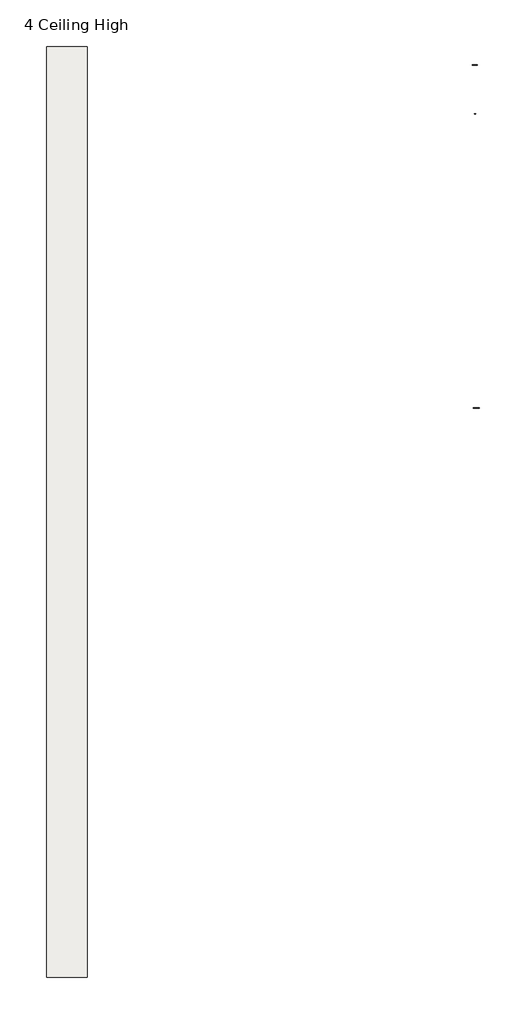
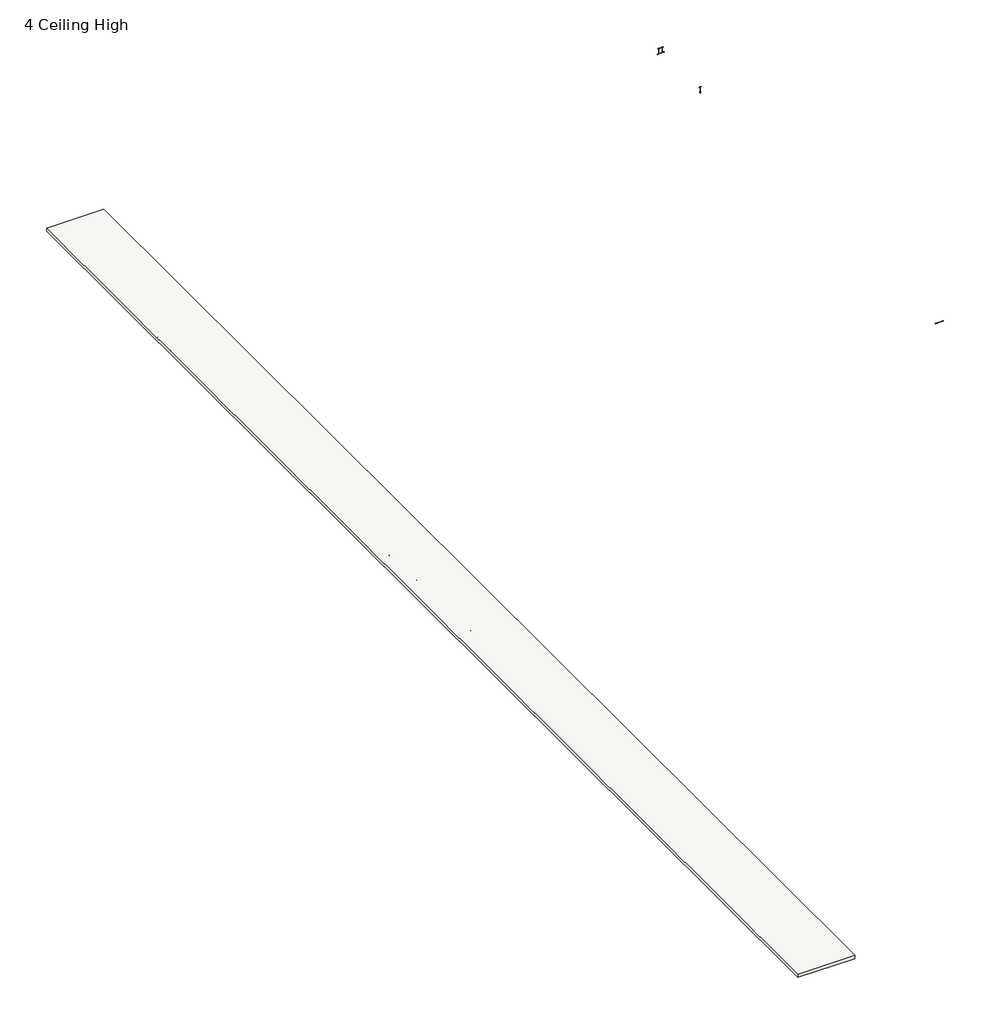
# One storey: 7 light fixtures, 1 covering.
"""IFC4 building model written with IfcOpenShell, lengths in millimetres."""

from ifc_helpers import new_model, si_unit, frame, origin, place, context, project, spatial, polyline, circle_curve, transform, mapped, element, save
from ifc_brep_helpers import plane_surface, cylinder_surface, revolved_surface, advanced_brep
from components import light_fixture_813dc2cb, light_fixture_600mm_2700k_620129ef, linear_2000mm_3000k_c9b1b868, linear_smd_custom_d8e69743, linear_suspendeddirect_1000mm_eee0d3e0, linear_suspendeddirect_3000mm_67b6cb3d, linear_suspendeddirect_custom_5ef7d768

model = new_model("IFC4")

# Units and contexts
model_context = context("Model", 3, world=origin())
ifc_project = project(units=[si_unit("LENGTHUNIT", "METRE", prefix="MILLI")], contexts=[model_context])

# Site, building, storey
site = spatial("IfcSite", under=ifc_project)
building = spatial("IfcBuilding", under=site)
storey = spatial("IfcBuildingStorey", under=building, Name="4 Ceiling High", Elevation=0.0)

# Covering
placement = place(None, origin())
element("IfcCovering", 1, ObjectType="Controsoffitto", at=placement, inside=storey, context=model_context, shape_type="AdvancedBrep", body=[
    advanced_brep(
    [(2500.0, -120950.0, 300.0), (2500.0, -7000.0, 300.0), (-2500.0, -7000.0, 300.0), (-2500.0, -120950.0, 300.0), (2500.0, -7000.0, 0.0), (2500.0, -120950.0, 0.0), (-2500.0, -120950.0, 0.0), (-2500.0, -7000.0, 0.0), (-1700.0, -9238.5829349, 0.0), (-1700.0, -9261.4303834, 0.0), (-700.0, -9261.4303834, 0.0), (-700.0, -9238.5829349, 0.0), (-1700.0, -11238.5829349, 0.0), (-1700.0, -11261.4303834, 0.0), (300.0, -11261.4303834, 0.0), (300.0, -11238.5829349, 0.0), (-1700.0, -13238.5829349, 0.0), (-1700.0, -13261.4303834, 0.0), (1300.0, -13261.4303834, 0.0), (1300.0, -13238.5829349, 0.0), (-1688.5829349, -43200.0, 0.0), (-1711.4170651, -43200.0, 0.0), (-1711.4170651, -43261.4170651, 0.0), (-1650.0, -43261.4170651, 0.0), (-1650.0, -43238.5829349, 0.0), (-1688.5829349, -43238.5829349, 0.0), (-1457.6269159, -53160.9730841, 0.0), (-1473.7730841, -53144.8269159, 0.0), (-1494.9774113, -53166.0312431, 0.0), (-1670.0, -53238.5829349, 0.0), (-1700.0, -53238.5829349, 0.0), (-1700.0, -53261.4170651, 0.0), (-1670.0, -53261.4170651, 0.0), (-1478.8269148, -53182.1730852, 0.0), (-1700.0, -61261.4170651, 0.0), (-1670.0, -61261.4170651, 0.0), (-1261.996936, -61025.2814391, 0.0), (-1247.596938, -61000.181438, 0.0), (-1267.403062, -60988.818562, 0.0), (-1281.799419, -61013.912212, 0.0), (-1670.0, -61238.5829349, 0.0), (-1700.0, -61238.5829349, 0.0), (-1700.0, -63261.4170651, 0.0), (-1670.0, -63261.4170651, 0.0), (-1199.9829349, -62791.4, 0.0), (-1199.9829349, -62761.4, 0.0), (-1222.8170651, -62761.4, 0.0), (-1222.8170651, -62791.4, 0.0), (-1670.0, -63238.5829349, 0.0), (-1700.0, -63238.5829349, 0.0), (-1222.8730903, -65042.1269097, 0.0), (-1698.0, -65238.5829349, 0.0), (-1700.0, -65238.5829349, 0.0), (-1700.0, -65261.4170651, 0.0), (-1698.0, -65261.4170651, 0.0), (-1206.7368498, -65058.2830059, 0.0), (-1204.7269159, -65056.2730841, 0.0), (-1220.8730841, -65040.1269159, 0.0), (-1670.0, -67238.5829349, 0.0), (-1700.0, -67238.5829349, 0.0), (-1700.0, -67261.4170651, 0.0), (-1670.0, -67261.4170651, 0.0), (-1107.8969316, -66936.2814416, 0.0), (-1093.496938, -66911.181438, 0.0), (-1113.303062, -66899.818562, 0.0), (-1127.6965633, -66924.9072345, 0.0), (-999.9829349, -68563.4, 0.0), (-999.9829349, -68561.4, 0.0), (-1022.8170651, -68561.4, 0.0), (-1022.8170651, -68563.4, 0.0), (-1698.0, -69238.5829349, 0.0), (-1700.0, -69238.5829349, 0.0), (-1700.0, -69261.4170651, 0.0), (-1698.0, -69261.4170651, 0.0), (-1420.796938, -55100.181438, 0.0), (-1440.603062, -55088.818562, 0.0), (-1455.008473, -55113.9279937, 0.0), (-1670.0, -55238.5829349, 0.0), (-1700.0, -55238.5829349, 0.0), (-1700.0, -55261.4170651, 0.0), (-1670.0, -55261.4170651, 0.0), (-1435.1969337, -55125.2814404, 0.0), (-1399.9829349, -56961.4, 0.0), (-1422.8170651, -56961.4, 0.0), (-1422.8170651, -56991.4, 0.0), (-1670.0, -57238.5829349, 0.0), (-1700.0, -57238.5829349, 0.0), (-1700.0, -57261.4170651, 0.0), (-1670.0, -57261.4170651, 0.0), (-1399.9829349, -56991.4, 0.0), (-1700.0, -59261.4170651, 0.0), (-1670.0, -59261.4170651, 0.0), (-1337.4269159, -59123.6730841, 0.0), (-1316.2269159, -59102.4730841, 0.0), (-1332.3730841, -59086.3269159, 0.0), (-1353.5725617, -59107.5263934, 0.0), (-1670.0, -59238.5829349, 0.0), (-1700.0, -59238.5829349, 0.0), (-1700.0, -9261.4303834, 12.5), (-1700.0, -9238.5829349, 12.5), (-700.0, -9261.4303834, 12.5), (-700.0, -9238.5829349, 12.5), (-1700.0, -11261.4303834, 12.5), (-1700.0, -11238.5829349, 12.5), (300.0, -11261.4303834, 12.5), (300.0, -11238.5829349, 12.5), (-1700.0, -13261.4303834, 12.5), (-1700.0, -13238.5829349, 12.5), (1300.0, -13261.4303834, 12.5), (1300.0, -13238.5829349, 12.5), (-1688.5829349, -43200.0, 12.5), (-1711.4170651, -43200.0, 12.5), (-1650.0, -43261.4170651, 12.5), (-1650.0, -43238.5829349, 12.5), (-1711.4170651, -43261.4170651, 12.5), (-1688.5829349, -43238.5829349, 12.5), (-1608.2170651, -43308.2170651, 20.5), (-1758.2170651, -43308.2170651, 20.5), (-1758.2170651, -43158.2170651, 20.5), (-1608.2170651, -43158.2170651, 20.5), (-1608.2170651, -43308.2170651, 12.5), (-1608.2170651, -43158.2170651, 12.5), (-1758.2170651, -43158.2170651, 12.5), (-1758.2170651, -43308.2170651, 12.5), (-1457.6269159, -53160.9730841, 12.5), (-1473.7730841, -53144.8269159, 12.5), (-1700.0, -53238.5829349, 12.5), (-1700.0, -53261.4170651, 12.5), (-1494.9730841, -53166.0269159, 12.5), (-1478.8269159, -53182.1730841, 12.5), (-1670.0, -53261.4170651, 12.5), (-1670.0, -53238.5829349, 12.5), (-1670.0, -59261.4170651, 12.5), (-1700.0, -59261.4170651, 12.5), (-1700.0, -61261.4170651, 12.5), (-1670.0, -61261.4170651, 12.5), (-1700.0, -63261.4170651, 12.5), (-1670.0, -63261.4170651, 12.5), (-1222.8631502, -65042.1169941, 12.5), (-1698.0, -65238.5829349, 12.5), (-1700.0, -65238.5829349, 12.5), (-1700.0, -67261.4170651, 12.5), (-1700.0, -67238.5829349, 12.5), (-1670.0, -67238.5829349, 12.5), (-1127.6965569, -66924.9072382, 12.5), (-1113.303062, -66899.818562, 12.5), (-1093.496938, -66911.181438, 12.5), (-1107.896938, -66936.281438, 12.5), (-1670.0, -67261.4170651, 12.5), (-999.9829349, -68563.4, 12.5), (-999.9829349, -68561.4, 12.5), (-1420.796938, -55100.181438, 12.5), (-1440.603062, -55088.818562, 12.5), (-1700.0, -55238.5829349, 12.5), (-1700.0, -55261.4170651, 12.5), (-1455.003062, -55113.918562, 12.5), (-1435.196938, -55125.281438, 12.5), (-1670.0, -55261.4170651, 12.5), (-1670.0, -55238.5829349, 12.5), (-1399.9829349, -56961.4, 12.5), (-1422.8170651, -56961.4, 12.5), (-1700.0, -57238.5829349, 12.5), (-1700.0, -57261.4170651, 12.5), (-1422.8170651, -56991.4, 12.5), (-1399.9829349, -56991.4, 12.5), (-1670.0, -57261.4170651, 12.5), (-1670.0, -57238.5829349, 12.5), (-1316.2269159, -59102.4730841, 12.5), (-1332.3730841, -59086.3269159, 12.5), (-1700.0, -59238.5829349, 12.5), (-1353.5730841, -59107.5269159, 12.5), (-1337.4269159, -59123.6730841, 12.5), (-1670.0, -59238.5829349, 12.5), (-1247.596938, -61000.181438, 12.5), (-1267.403062, -60988.818562, 12.5), (-1700.0, -61238.5829349, 12.5), (-1281.803062, -61013.918562, 12.5), (-1261.996938, -61025.281438, 12.5), (-1670.0, -61238.5829349, 12.5), (-1222.8170651, -62761.4, 12.5), (-1199.9829349, -62761.4, 12.5), (-1700.0, -63238.5829349, 12.5), (-1222.8170651, -62791.4, 12.5), (-1670.0, -63238.5829349, 12.5), (-1199.9829349, -62791.4, 12.5), (-1204.7269159, -65056.2730841, 12.5), (-1220.8730841, -65040.1269159, 12.5), (-1700.0, -65261.4170651, 12.5), (-1206.7269159, -65058.2730841, 12.5), (-1698.0, -65261.4170651, 12.5), (-1022.8170651, -68561.4, 12.5), (-1700.0, -69238.5829349, 12.5), (-1700.0, -69261.4170651, 12.5), (-1022.8170651, -68563.4, 12.5), (-1698.0, -69261.4170651, 12.5), (-1698.0, -69238.5829349, 12.5)],
    [
        (0, 1),
        (1, 2),
        (2, 3),
        (3, 0),
        (4, 5),
        (5, 6),
        (6, 7),
        (7, 4),
        (8, 9),
        (9, 10),
        (10, 11),
        (11, 8),
        (12, 13),
        (13, 14),
        (14, 15),
        (15, 12),
        (16, 17),
        (17, 18),
        (18, 19),
        (19, 16),
        (20, 21),
        (21, 22),
        (22, 23),
        (23, 24),
        (24, 25),
        (25, 20),
        (26, 27),
        (27, 28),
        (28, 29, circle_curve(frame((-1670.0, -52991.1961792, 0.0), z_axis=(0.0, 0.0, -1.0), x_axis=(0.70748569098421, -0.7067276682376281, 0.0)), 247.3867558)),
        (29, 30),
        (30, 31),
        (31, 32),
        (32, 33, circle_curve(frame((-1670.0, -52991.1961792, 0.0), z_axis=(0.0, 0.0, 1.0), x_axis=(0.70748569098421, -0.7067276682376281, 0.0)), 270.2208859)),
        (33, 26),
        (34, 35),
        (35, 36, circle_curve(frame((-1670.0, -60790.8685547, 0.0), z_axis=(0.0, 0.0, 1.0), x_axis=(0.867071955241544, -0.4981829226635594, 0.0)), 470.5485104)),
        (36, 37),
        (37, 38),
        (38, 39),
        (39, 40, circle_curve(frame((-1670.0, -60790.8685547, 0.0), z_axis=(0.0, 0.0, -1.0), x_axis=(0.867071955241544, -0.4981829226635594, 0.0)), 447.7143803)),
        (40, 41),
        (41, 34),
        (42, 43),
        (43, 44, circle_curve(frame((-1670.0, -62791.4, 0.0), z_axis=(0.0, 0.0, 1.0), x_axis=(1.0, 0.0, 0.0)), 470.0170651)),
        (44, 45),
        (45, 46),
        (46, 47),
        (47, 48, circle_curve(frame((-1670.0, -62791.4, 0.0), z_axis=(0.0, 0.0, -1.0), x_axis=(1.0, 0.0, 0.0)), 447.1829349)),
        (48, 49),
        (49, 42),
        (50, 51, circle_curve(frame((-1698.0, -64565.8101101, 0.0), z_axis=(0.0, 0.0, -1.0), x_axis=(0.7062366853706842, -0.7079758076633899, 0.0)), 672.7728248)),
        (51, 52),
        (52, 53),
        (53, 54),
        (54, 55, circle_curve(frame((-1698.0, -64565.8101101, 0.0), z_axis=(0.0, 0.0, 1.0), x_axis=(0.7062366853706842, -0.7079758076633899, 0.0)), 695.606955)),
        (55, 56),
        (56, 57),
        (57, 50),
        (58, 59),
        (59, 60),
        (60, 61),
        (61, 62, circle_curve(frame((-1670.0, -66612.9599249, 0.0), z_axis=(0.0, 0.0, 1.0), x_axis=(0.866821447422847, -0.49861867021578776, 0.0)), 648.4571402)),
        (62, 63),
        (63, 64),
        (64, 65),
        (65, 58, circle_curve(frame((-1670.0, -66612.9599249, 0.0), z_axis=(0.0, 0.0, -1.0), x_axis=(0.866821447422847, -0.49861867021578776, 0.0)), 625.6230101)),
        (66, 67),
        (67, 68),
        (68, 69),
        (69, 70, circle_curve(frame((-1698.0, -68563.4, 0.0), z_axis=(0.0, 0.0, -1.0), x_axis=(1.0, 0.0, 0.0)), 675.1829349)),
        (70, 71),
        (71, 72),
        (72, 73),
        (73, 66, circle_curve(frame((-1698.0, -68563.4, 0.0), z_axis=(0.0, 0.0, 1.0), x_axis=(1.0, 0.0, 0.0)), 698.0170651)),
        (74, 75),
        (75, 76),
        (76, 77, circle_curve(frame((-1670.0, -54990.8582439, 0.0), z_axis=(0.0, 0.0, -1.0), x_axis=(0.8678647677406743, -0.49680050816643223, 0.0)), 247.7246911)),
        (77, 78),
        (78, 79),
        (79, 80),
        (80, 81, circle_curve(frame((-1670.0, -54990.8582439, 0.0), z_axis=(0.0, 0.0, 1.0), x_axis=(0.8678647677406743, -0.49680050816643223, 0.0)), 270.5588212)),
        (81, 74),
        (82, 83),
        (83, 84),
        (84, 85, circle_curve(frame((-1670.0, -56991.4, 0.0), z_axis=(0.0, 0.0, -1.0), x_axis=(1.0, 0.0, 0.0)), 247.1829349)),
        (85, 86),
        (86, 87),
        (87, 88),
        (88, 89, circle_curve(frame((-1670.0, -56991.4, 0.0), z_axis=(0.0, 0.0, 1.0), x_axis=(1.0, 0.0, 0.0)), 270.0170651)),
        (89, 82),
        (90, 91),
        (91, 92, circle_curve(frame((-1670.0, -58791.0579985, 0.0), z_axis=(0.0, 0.0, 1.0), x_axis=(0.7070610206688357, -0.7071525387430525, 0.0)), 470.3590666)),
        (92, 93),
        (93, 94),
        (94, 95),
        (95, 96, circle_curve(frame((-1670.0, -58791.0579985, 0.0), z_axis=(0.0, 0.0, -1.0), x_axis=(0.7070610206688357, -0.7071525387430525, 0.0)), 447.5249364)),
        (96, 97),
        (97, 90),
        (0, 5),
        (4, 1),
        (3, 6),
        (2, 7),
        (98, 9),
        (8, 99),
        (99, 98),
        (100, 101),
        (101, 11),
        (10, 100),
        (99, 101),
        (100, 98),
        (102, 13),
        (12, 103),
        (103, 102),
        (104, 105),
        (105, 15),
        (14, 104),
        (103, 105),
        (104, 102),
        (106, 17),
        (16, 107),
        (107, 106),
        (108, 109),
        (109, 19),
        (18, 108),
        (107, 109),
        (108, 106),
        (20, 110),
        (110, 111),
        (111, 21),
        (23, 112),
        (112, 113),
        (113, 24),
        (111, 114),
        (114, 22),
        (25, 115),
        (115, 110),
        (114, 112),
        (113, 115),
        (116, 117),
        (117, 118),
        (118, 119),
        (119, 116),
        (120, 121),
        (121, 122),
        (122, 123),
        (123, 120),
        (119, 121),
        (120, 116),
        (118, 122),
        (117, 123),
        (26, 124),
        (124, 125),
        (125, 27),
        (30, 126),
        (126, 127),
        (127, 31),
        (125, 128),
        (128, 28),
        (124, 129),
        (129, 130, circle_curve(frame((-1670.0, -52991.1961792, 12.5), z_axis=(0.0, 0.0, -1.0), x_axis=(0.70748569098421, -0.7067276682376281, 0.0)), 270.2208859)),
        (130, 127),
        (126, 131),
        (131, 128, circle_curve(frame((-1670.0, -52991.1961792, 12.5), z_axis=(0.0, 0.0, 1.0), x_axis=(0.70748569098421, -0.7067276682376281, 0.0)), 247.3867558)),
        (33, 129),
        (131, 29),
        (32, 130),
        (132, 91),
        (90, 133),
        (133, 132),
        (34, 134),
        (134, 135),
        (135, 35),
        (42, 136),
        (136, 137),
        (137, 43),
        (138, 139, circle_curve(frame((-1698.0, -64565.8101101, 12.5), z_axis=(0.0, 0.0, -1.0), x_axis=(0.7062366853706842, -0.7079758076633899, 0.0)), 672.7728248)),
        (139, 51),
        (50, 138),
        (139, 140),
        (140, 52),
        (141, 142),
        (142, 143),
        (143, 144, circle_curve(frame((-1670.0, -66612.9599249, 12.5), z_axis=(0.0, 0.0, 1.0), x_axis=(0.866821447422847, -0.49861867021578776, 0.0)), 625.6230101)),
        (144, 145),
        (145, 146),
        (146, 147),
        (147, 148, circle_curve(frame((-1670.0, -66612.9599249, 12.5), z_axis=(0.0, 0.0, -1.0), x_axis=(0.866821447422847, -0.49861867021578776, 0.0)), 648.4571402)),
        (148, 141),
        (142, 59),
        (58, 143),
        (66, 149),
        (149, 150),
        (150, 67),
        (151, 152),
        (152, 75),
        (74, 151),
        (78, 153),
        (153, 154),
        (154, 79),
        (152, 155),
        (155, 76),
        (151, 156),
        (156, 157, circle_curve(frame((-1670.0, -54990.8582439, 12.5), z_axis=(0.0, 0.0, -1.0), x_axis=(0.8678647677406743, -0.49680050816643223, 0.0)), 270.5588212)),
        (157, 154),
        (153, 158),
        (158, 155, circle_curve(frame((-1670.0, -54990.8582439, 12.5), z_axis=(0.0, 0.0, 1.0), x_axis=(0.8678647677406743, -0.49680050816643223, 0.0)), 247.7246911)),
        (81, 156),
        (158, 77),
        (80, 157),
        (159, 160),
        (160, 83),
        (82, 159),
        (86, 161),
        (161, 162),
        (162, 87),
        (160, 163),
        (163, 84),
        (159, 164),
        (164, 165, circle_curve(frame((-1670.0, -56991.4, 12.5), z_axis=(0.0, 0.0, -1.0), x_axis=(1.0, 0.0, 0.0)), 270.0170651)),
        (165, 162),
        (161, 166),
        (166, 163, circle_curve(frame((-1670.0, -56991.4, 12.5), z_axis=(0.0, 0.0, 1.0), x_axis=(1.0, 0.0, 0.0)), 247.1829349)),
        (89, 164),
        (166, 85),
        (88, 165),
        (93, 167),
        (167, 168),
        (168, 94),
        (97, 169),
        (169, 133),
        (168, 170),
        (170, 95),
        (167, 171),
        (171, 132, circle_curve(frame((-1670.0, -58791.0579985, 12.5), z_axis=(0.0, 0.0, -1.0), x_axis=(0.7070610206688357, -0.7071525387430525, 0.0)), 470.3590666)),
        (169, 172),
        (172, 170, circle_curve(frame((-1670.0, -58791.0579985, 12.5), z_axis=(0.0, 0.0, 1.0), x_axis=(0.7070610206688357, -0.7071525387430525, 0.0)), 447.5249364)),
        (92, 171),
        (172, 96),
        (37, 173),
        (173, 174),
        (174, 38),
        (175, 134),
        (41, 175),
        (174, 176),
        (176, 39),
        (173, 177),
        (177, 135, circle_curve(frame((-1670.0, -60790.8685547, 12.5), z_axis=(0.0, 0.0, -1.0), x_axis=(0.867071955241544, -0.4981829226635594, 0.0)), 470.5485104)),
        (175, 178),
        (178, 176, circle_curve(frame((-1670.0, -60790.8685547, 12.5), z_axis=(0.0, 0.0, 1.0), x_axis=(0.867071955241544, -0.4981829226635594, 0.0)), 447.7143803)),
        (36, 177),
        (178, 40),
        (179, 46),
        (45, 180),
        (180, 179),
        (49, 181),
        (181, 136),
        (179, 182),
        (182, 47),
        (181, 183),
        (183, 182, circle_curve(frame((-1670.0, -62791.4, 12.5), z_axis=(0.0, 0.0, 1.0), x_axis=(1.0, 0.0, 0.0)), 447.1829349)),
        (180, 184),
        (184, 137, circle_curve(frame((-1670.0, -62791.4, 12.5), z_axis=(0.0, 0.0, -1.0), x_axis=(1.0, 0.0, 0.0)), 470.0170651)),
        (44, 184),
        (183, 48),
        (56, 185),
        (185, 186),
        (186, 57),
        (140, 187),
        (187, 53),
        (186, 138),
        (185, 188),
        (188, 189, circle_curve(frame((-1698.0, -64565.8101101, 12.5), z_axis=(0.0, 0.0, -1.0), x_axis=(0.7062366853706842, -0.7079758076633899, 0.0)), 695.606955)),
        (189, 187),
        (55, 188),
        (54, 189),
        (63, 146),
        (145, 64),
        (141, 60),
        (144, 65),
        (62, 147),
        (61, 148),
        (150, 190),
        (190, 68),
        (191, 192),
        (192, 72),
        (71, 191),
        (190, 193),
        (193, 69),
        (149, 194, circle_curve(frame((-1698.0, -68563.4, 12.5), z_axis=(0.0, 0.0, -1.0), x_axis=(1.0, 0.0, 0.0)), 698.0170651)),
        (194, 192),
        (191, 195),
        (195, 193, circle_curve(frame((-1698.0, -68563.4, 12.5), z_axis=(0.0, 0.0, 1.0), x_axis=(1.0, 0.0, 0.0)), 675.1829349)),
        (195, 70),
        (73, 194),
    ],
    [
        plane_surface(frame((-2500.0, -7000.0, 300.0), z_axis=(0.0, 0.0, 1.0), x_axis=(-1.0, 0.0, 0.0))),
        plane_surface(frame((-2500.0, -7000.0, 0.0), z_axis=(0.0, 0.0, -1.0), x_axis=(1.0, 0.0, 0.0))),
        plane_surface(frame((2500.0, -120950.0, 300.0), z_axis=(1.0, 0.0, 0.0), x_axis=(0.0, 0.0, -1.0))),
        plane_surface(frame((-2500.0, -120950.0, 300.0), z_axis=(0.0, -1.0, 0.0), x_axis=(0.0, 0.0, -1.0))),
        plane_surface(frame((-2500.0, -7000.0, 300.0), z_axis=(-1.0, 0.0, 0.0), x_axis=(0.0, 0.0, -1.0))),
        plane_surface(frame((2500.0, -7000.0, 300.0), z_axis=(0.0, 1.0, 0.0), x_axis=(0.0, 0.0, -1.0))),
        plane_surface(frame((-1700.0, -9250.0, 0.0), z_axis=(1.0, 0.0, 0.0), x_axis=(0.0, 0.0, -1.0))),
        plane_surface(frame((-700.0, -9250.0, 0.0), z_axis=(-1.0, 0.0, 0.0), x_axis=(0.0, 0.0, -1.0))),
        plane_surface(frame((-1700.0, -9261.4303834, 12.5), z_axis=(0.0, 0.0, -1.0), x_axis=(1.0, 0.0, 0.0))),
        plane_surface(frame((-1700.0, -9238.5829349, 12.5), z_axis=(0.0, -1.0, 0.0), x_axis=(1.0, 0.0, 0.0))),
        plane_surface(frame((-1700.0, -9261.4303834, -0.0137114), z_axis=(0.0, 1.0, 0.0), x_axis=(1.0, 0.0, 0.0))),
        plane_surface(frame((-1700.0, -11250.0, 0.0), z_axis=(1.0, 0.0, 0.0), x_axis=(0.0, 0.0, -1.0))),
        plane_surface(frame((300.0, -11250.0, 0.0), z_axis=(-1.0, 0.0, 0.0), x_axis=(0.0, 0.0, -1.0))),
        plane_surface(frame((-1700.0, -11261.4303834, 12.5), z_axis=(0.0, 0.0, -1.0), x_axis=(1.0, 0.0, 0.0))),
        plane_surface(frame((-1700.0, -11238.5829349, 12.5), z_axis=(0.0, -1.0, 0.0), x_axis=(1.0, 0.0, 0.0))),
        plane_surface(frame((-1700.0, -11261.4303834, -0.0137114), z_axis=(0.0, 1.0, 0.0), x_axis=(1.0, 0.0, 0.0))),
        plane_surface(frame((-1700.0, -13250.0, 0.0), z_axis=(1.0, 0.0, 0.0), x_axis=(0.0, 0.0, -1.0))),
        plane_surface(frame((1300.0, -13250.0, 0.0), z_axis=(-1.0, 0.0, 0.0), x_axis=(0.0, 0.0, -1.0))),
        plane_surface(frame((-1700.0, -13261.4303834, 12.5), z_axis=(0.0, 0.0, -1.0), x_axis=(1.0, 0.0, 0.0))),
        plane_surface(frame((-1700.0, -13238.5829349, 12.5), z_axis=(0.0, -1.0, 0.0), x_axis=(1.0, 0.0, 0.0))),
        plane_surface(frame((-1700.0, -13261.4303834, -0.0137114), z_axis=(0.0, 1.0, 0.0), x_axis=(1.0, 0.0, 0.0))),
        plane_surface(frame((-1700.0, -43200.0, 12.5), z_axis=(0.0, -1.0, 0.0), x_axis=(0.0, 0.0, -1.0))),
        plane_surface(frame((-1650.0, -43250.0, 12.5), z_axis=(-1.0, 0.0, 0.0), x_axis=(0.0, 0.0, -1.0))),
        plane_surface(frame((-1711.4170651, -43200.0, 0.0), z_axis=(1.0, 0.0, 0.0), x_axis=(0.0, -1.0, 0.0))),
        plane_surface(frame((-1688.5829349, -43200.0, 12.5), z_axis=(-1.0, 0.0, 0.0), x_axis=(0.0, -1.0, 0.0))),
        plane_surface(frame((-1711.4170651, -43261.4170651, 0.0), z_axis=(0.0, 1.0, 0.0), x_axis=(1.0, 0.0, 0.0))),
        plane_surface(frame((-1688.5829349, -43238.5829349, 12.5), z_axis=(0.0, -1.0, 0.0), x_axis=(1.0, 0.0, 0.0))),
        plane_surface(frame((-1608.2170651, -43373.2170651, 20.5), z_axis=(0.0, 0.0, -1.0), x_axis=(0.0, 1.0, 0.0))),
        plane_surface(frame((-1608.2170651, -43373.2170651, 12.5), z_axis=(0.0, 0.0, 1.0), x_axis=(0.0, -1.0, 0.0))),
        plane_surface(frame((-1608.2170651, -43308.2170651, 20.5), z_axis=(-1.0, 0.0, 0.0), x_axis=(0.0, 0.0, -1.0))),
        plane_surface(frame((-1608.2170651, -43158.2170651, 20.5), z_axis=(0.0, -1.0, 0.0), x_axis=(0.0, 0.0, -1.0))),
        plane_surface(frame((-1758.2170651, -43158.2170651, 20.5), z_axis=(1.0, 0.0, 0.0), x_axis=(0.0, 0.0, -1.0))),
        plane_surface(frame((-1758.2170651, -43308.2170651, 20.5), z_axis=(0.0, 1.0, 0.0), x_axis=(0.0, 0.0, -1.0))),
        plane_surface(frame((-1465.7, -53152.9, 12.5), z_axis=(-0.707106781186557, -0.7071067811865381, 0.0), x_axis=(0.0, 0.0, -1.0))),
        plane_surface(frame((-1700.0, -53250.0, 12.5), z_axis=(1.0, 0.0, 0.0), x_axis=(0.0, 0.0, -1.0))),
        plane_surface(frame((-1473.7730841, -53144.8269159, 0.0), z_axis=(0.7071067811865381, -0.7071067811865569, 0.0), x_axis=(-0.7071067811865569, -0.7071067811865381, 0.0))),
        plane_surface(frame((-1473.7730841, -53144.8269159, 12.5), z_axis=(0.0, 0.0, -1.0), x_axis=(-0.7071067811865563, -0.7071067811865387, 0.0))),
        plane_surface(frame((-1457.6269159, -53160.9730841, 12.5), z_axis=(-0.7071067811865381, 0.7071067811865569, 0.0), x_axis=(-0.7071067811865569, -0.7071067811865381, 0.0))),
        cylinder_surface(frame((-1670.0, -52991.1961792, 12.5), z_axis=(0.0, 0.0, -1.0), x_axis=(0.70748569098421, -0.7067276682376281, 0.0)), 247.3867558),
        revolved_surface(polyline([(-1478.822589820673, -53182.16875580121, 0.0), (-1478.822589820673, -53182.16875580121, 12.5)]), (-1670.0, -52991.1961792, 12.5), (0.0, 0.0, -1.0)),
        plane_surface(frame((-1670.0, -53238.5829349, 0.0), z_axis=(0.0, -1.0, 0.0), x_axis=(-1.0, 0.0, 0.0))),
        plane_surface(frame((-1670.0, -53261.4170651, 12.5), z_axis=(0.0, 1.0, 0.0), x_axis=(-1.0, 0.0, 0.0))),
        plane_surface(frame((-1670.0, -59261.4170651, 12.5), z_axis=(0.0, 1.0, 0.0), x_axis=(-1.0, 0.0, 0.0))),
        plane_surface(frame((-1670.0, -61261.4170651, 12.5), z_axis=(0.0, 1.0, 0.0), x_axis=(-1.0, 0.0, 0.0))),
        plane_surface(frame((-1670.0, -63261.4170651, 12.5), z_axis=(0.0, 1.0, 0.0), x_axis=(-1.0, 0.0, 0.0))),
        cylinder_surface(frame((-1698.0, -64565.8101101, 12.5), z_axis=(0.0, 0.0, -1.0), x_axis=(0.7062366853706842, -0.7079758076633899, 0.0)), 672.7728248),
        plane_surface(frame((-1698.0, -65238.5829349, 0.0), z_axis=(0.0, -1.0, 0.0), x_axis=(-1.0, 0.0, 0.0))),
        plane_surface(frame((-1113.303062, -66899.818562, 12.5), z_axis=(0.0, 0.0, -1.0000000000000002), x_axis=(-0.49762683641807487, -0.8673912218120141, 0.0))),
        plane_surface(frame((-1670.0, -67238.5829349, 0.0), z_axis=(0.0, -1.0, 0.0), x_axis=(-1.0, 0.0, 0.0))),
        plane_surface(frame((-999.9829349, -68561.4, 12.5), z_axis=(-1.0, 0.0, 0.0), x_axis=(0.0, -1.0, 0.0))),
        plane_surface(frame((-1430.7, -55094.5, 12.5), z_axis=(-0.49762683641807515, -0.867391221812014, 0.0), x_axis=(0.0, 0.0, -1.0))),
        plane_surface(frame((-1700.0, -55250.0, 12.5), z_axis=(1.0, 0.0, 0.0), x_axis=(0.0, 0.0, -1.0))),
        plane_surface(frame((-1440.603062, -55088.818562, 0.0), z_axis=(0.8673912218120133, -0.49762683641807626, 0.0), x_axis=(-0.49762683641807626, -0.8673912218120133, 0.0))),
        plane_surface(frame((-1440.603062, -55088.818562, 12.5), z_axis=(0.0, 0.0, -1.0000000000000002), x_axis=(-0.49762683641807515, -0.867391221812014, 0.0))),
        plane_surface(frame((-1420.796938, -55100.181438, 12.5), z_axis=(-0.8673912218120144, 0.4976268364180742, 0.0), x_axis=(-0.4976268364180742, -0.8673912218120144, 0.0))),
        cylinder_surface(frame((-1670.0, -54990.8582439, 12.5), z_axis=(0.0, 0.0, -1.0), x_axis=(0.8678647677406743, -0.49680050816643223, 0.0)), 247.7246911),
        revolved_surface(polyline([(-1435.1915314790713, -55125.27200376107, 0.0), (-1435.1915314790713, -55125.27200376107, 12.5)]), (-1670.0, -54990.8582439, 12.5), (0.0, 0.0, -1.0)),
        plane_surface(frame((-1670.0, -55238.5829349, 0.0), z_axis=(0.0, -1.0, 0.0), x_axis=(-1.0, 0.0, 0.0))),
        plane_surface(frame((-1670.0, -55261.4170651, 12.5), z_axis=(0.0, 1.0, 0.0), x_axis=(-1.0, 0.0, 0.0))),
        plane_surface(frame((-1411.4, -56961.4, 12.5), z_axis=(0.0, -1.0, 0.0), x_axis=(0.0, 0.0, -1.0))),
        plane_surface(frame((-1700.0, -57250.0, 12.5), z_axis=(1.0, 0.0, 0.0), x_axis=(0.0, 0.0, -1.0))),
        plane_surface(frame((-1422.8170651, -56961.4, 0.0), z_axis=(1.0, 0.0, 0.0), x_axis=(0.0, -1.0, 0.0))),
        plane_surface(frame((-1422.8170651, -56961.4, 12.5), z_axis=(0.0, 0.0, -1.0), x_axis=(0.0, -1.0, 0.0))),
        plane_surface(frame((-1399.9829349, -56961.4, 12.5), z_axis=(-1.0, 0.0, 0.0), x_axis=(0.0, -1.0, 0.0))),
        cylinder_surface(frame((-1670.0, -56991.4, 12.5), z_axis=(0.0, 0.0, -1.0), x_axis=(1.0, 0.0, 0.0)), 247.1829349),
        revolved_surface(polyline([(-1399.9829349, -56991.4, 0.0), (-1399.9829349, -56991.4, 12.5)]), (-1670.0, -56991.4, 12.5), (0.0, 0.0, -1.0)),
        plane_surface(frame((-1670.0, -57238.5829349, 0.0), z_axis=(0.0, -1.0, 0.0), x_axis=(-1.0, 0.0, 0.0))),
        plane_surface(frame((-1670.0, -57261.4170651, 12.5), z_axis=(0.0, 1.0, 0.0), x_axis=(-1.0, 0.0, 0.0))),
        plane_surface(frame((-1324.3, -59094.4, 12.5), z_axis=(-0.7071067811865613, -0.7071067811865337, 0.0), x_axis=(0.0, 0.0, -1.0))),
        plane_surface(frame((-1700.0, -59250.0, 12.5), z_axis=(1.0, 0.0, 0.0), x_axis=(0.0, 0.0, -1.0))),
        plane_surface(frame((-1332.3730841, -59086.3269159, 0.0), z_axis=(0.7071067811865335, -0.7071067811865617, 0.0), x_axis=(-0.7071067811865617, -0.7071067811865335, 0.0))),
        plane_surface(frame((-1332.3730841, -59086.3269159, 12.5), z_axis=(0.0, 0.0, -1.0), x_axis=(-0.7071067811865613, -0.7071067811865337, 0.0))),
        plane_surface(frame((-1316.2269159, -59102.4730841, 12.5), z_axis=(-0.7071067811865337, 0.7071067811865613, 0.0), x_axis=(-0.7071067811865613, -0.7071067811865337, 0.0))),
        cylinder_surface(frame((-1670.0, -58791.0579985, 12.5), z_axis=(0.0, 0.0, -1.0), x_axis=(0.7070610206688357, -0.7071525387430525, 0.0)), 447.5249364),
        revolved_surface(polyline([(-1337.427438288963, -59123.673606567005, 0.0), (-1337.427438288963, -59123.673606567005, 12.5)]), (-1670.0, -58791.0579985, 12.5), (0.0, 0.0, -1.0)),
        plane_surface(frame((-1670.0, -59238.5829349, 0.0), z_axis=(0.0, -1.0, 0.0), x_axis=(-1.0, 0.0, 0.0))),
        plane_surface(frame((-1257.5, -60994.5, 12.5), z_axis=(-0.49762683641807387, -0.8673912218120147, 0.0), x_axis=(0.0, 0.0, -1.0))),
        plane_surface(frame((-1700.0, -61250.0, 12.5), z_axis=(1.0, 0.0, 0.0), x_axis=(0.0, 0.0, -1.0))),
        plane_surface(frame((-1267.403062, -60988.818562, 0.0), z_axis=(0.8673912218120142, -0.49762683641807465, 0.0), x_axis=(-0.49762683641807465, -0.8673912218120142, 0.0))),
        plane_surface(frame((-1267.403062, -60988.818562, 12.5), z_axis=(0.0, 0.0, -1.0000000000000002), x_axis=(-0.49762683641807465, -0.8673912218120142, 0.0))),
        plane_surface(frame((-1247.596938, -61000.181438, 12.5), z_axis=(-0.8673912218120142, 0.49762683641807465, 0.0), x_axis=(-0.49762683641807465, -0.8673912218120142, 0.0))),
        cylinder_surface(frame((-1670.0, -60790.8685547, 12.5), z_axis=(0.0, 0.0, -1.0), x_axis=(0.867071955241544, -0.4981829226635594, 0.0)), 447.7143803),
        revolved_surface(polyline([(-1262.000583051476, -61025.28778686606, 0.0), (-1262.000583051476, -61025.28778686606, 12.5)]), (-1670.0, -60790.8685547, 12.5), (0.0, 0.0, -1.0)),
        plane_surface(frame((-1670.0, -61238.5829349, 0.0), z_axis=(0.0, -1.0, 0.0), x_axis=(-1.0, 0.0, 0.0))),
        plane_surface(frame((-1211.4, -62761.4, 12.5), z_axis=(0.0, -1.0, 0.0), x_axis=(0.0, 0.0, -1.0))),
        plane_surface(frame((-1700.0, -63250.0, 12.5), z_axis=(1.0, 0.0, 0.0), x_axis=(0.0, 0.0, -1.0))),
        plane_surface(frame((-1222.8170651, -62761.4, 0.0), z_axis=(1.0, 0.0, 0.0), x_axis=(0.0, -1.0, 0.0))),
        plane_surface(frame((-1222.8170651, -62761.4, 12.5), z_axis=(0.0, 0.0, -1.0), x_axis=(0.0, -1.0, 0.0))),
        plane_surface(frame((-1199.9829349, -62761.4, 12.5), z_axis=(-1.0, 0.0, 0.0), x_axis=(0.0, -1.0, 0.0))),
        cylinder_surface(frame((-1670.0, -62791.4, 12.5), z_axis=(0.0, 0.0, -1.0), x_axis=(1.0, 0.0, 0.0)), 447.1829349),
        revolved_surface(polyline([(-1199.9829349, -62791.4, 0.0), (-1199.9829349, -62791.4, 12.5)]), (-1670.0, -62791.4, 12.5), (0.0, 0.0, -1.0)),
        plane_surface(frame((-1670.0, -63238.5829349, 0.0), z_axis=(0.0, -1.0, 0.0), x_axis=(-1.0, 0.0, 0.0))),
        plane_surface(frame((-1212.8, -65048.2, 12.5), z_axis=(-0.7071067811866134, -0.7071067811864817, 0.0), x_axis=(0.0, 0.0, -1.0))),
        plane_surface(frame((-1700.0, -65250.0, 12.5), z_axis=(1.0, 0.0, 0.0), x_axis=(0.0, 0.0, -1.0))),
        plane_surface(frame((-1220.8730841, -65040.1269159, 0.0), z_axis=(0.7071067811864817, -0.7071067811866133, 0.0), x_axis=(-0.7071067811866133, -0.7071067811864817, 0.0))),
        plane_surface(frame((-1220.8730841, -65040.1269159, 12.5), z_axis=(0.0, 0.0, -1.0), x_axis=(-0.7071067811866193, -0.7071067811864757, 0.0))),
        plane_surface(frame((-1204.7269159, -65056.2730841, 12.5), z_axis=(-0.7071067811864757, 0.7071067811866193, 0.0), x_axis=(-0.7071067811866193, -0.7071067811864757, 0.0))),
        revolved_surface(polyline([(-1206.7368497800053, -65058.2830058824, 0.0), (-1206.7368497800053, -65058.2830058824, 12.5)]), (-1698.0, -64565.8101101, 12.5), (0.0, 0.0, -1.0)),
        plane_surface(frame((-1698.0, -65261.4170651, 12.5), z_axis=(0.0, 1.0, 0.0), x_axis=(-1.0, 0.0, 0.0))),
        plane_surface(frame((-1103.4, -66905.5, 12.5), z_axis=(-0.49762683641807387, -0.8673912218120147, 0.0), x_axis=(0.0, 0.0, -1.0))),
        plane_surface(frame((-1700.0, -67250.0, 12.5), z_axis=(1.0, 0.0, 0.0), x_axis=(0.0, 0.0, -1.0))),
        plane_surface(frame((-1113.303062, -66899.818562, 0.0), z_axis=(0.8673912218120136, -0.49762683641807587, 0.0), x_axis=(-0.49762683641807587, -0.8673912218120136, 0.0))),
        plane_surface(frame((-1093.496938, -66911.181438, 12.5), z_axis=(-0.8673912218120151, 0.4976268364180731, 0.0), x_axis=(-0.4976268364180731, -0.8673912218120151, 0.0))),
        cylinder_surface(frame((-1670.0, -66612.9599249, 12.5), z_axis=(0.0, 0.0, -1.0), x_axis=(0.866821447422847, -0.49861867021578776, 0.0)), 625.6230101),
        revolved_surface(polyline([(-1107.903443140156, -66936.29276183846, 0.0), (-1107.903443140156, -66936.29276183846, 12.5)]), (-1670.0, -66612.9599249, 12.5), (0.0, 0.0, -1.0)),
        plane_surface(frame((-1670.0, -67261.4170651, 12.5), z_axis=(0.0, 1.0, 0.0), x_axis=(-1.0, 0.0, 0.0))),
        plane_surface(frame((-1011.4, -68561.4, 12.5), z_axis=(0.0, -1.0, 0.0), x_axis=(0.0, 0.0, -1.0))),
        plane_surface(frame((-1700.0, -69250.0, 12.5), z_axis=(1.0, 0.0, 0.0), x_axis=(0.0, 0.0, -1.0))),
        plane_surface(frame((-1022.8170651, -68561.4, 0.0), z_axis=(1.0, 0.0, 0.0), x_axis=(0.0, -1.0, 0.0))),
        plane_surface(frame((-1022.8170651, -68561.4, 12.5), z_axis=(0.0, 0.0, -1.0), x_axis=(0.0, -1.0, 0.0))),
        cylinder_surface(frame((-1698.0, -68563.4, 12.5), z_axis=(0.0, 0.0, -1.0), x_axis=(1.0, 0.0, 0.0)), 675.1829349),
        revolved_surface(polyline([(-999.9829349, -68563.4, 0.0), (-999.9829349, -68563.4, 12.5)]), (-1698.0, -68563.4, 12.5), (0.0, 0.0, -1.0)),
        plane_surface(frame((-1698.0, -69238.5829349, 0.0), z_axis=(0.0, -1.0, 0.0), x_axis=(-1.0, 0.0, 0.0))),
        plane_surface(frame((-1698.0, -69261.4170651, 12.5), z_axis=(0.0, 1.0, 0.0), x_axis=(-1.0, 0.0, 0.0))),
    ],
    [
        (0, [[1, 2, 3, 4]]),
        (1, [[5, 6, 7, 8], [9, 10, 11, 12], [13, 14, 15, 16], [17, 18, 19, 20], [21, 22, 23, 24, 25, 26], [27, 28, 29, 30, 31, 32, 33, 34], [35, 36, 37, 38, 39, 40, 41, 42], [43, 44, 45, 46, 47, 48, 49, 50], [51, 52, 53, 54, 55, 56, 57, 58], [59, 60, 61, 62, 63, 64, 65, 66], [67, 68, 69, 70, 71, 72, 73, 74], [75, 76, 77, 78, 79, 80, 81, 82], [83, 84, 85, 86, 87, 88, 89, 90], [91, 92, 93, 94, 95, 96, 97, 98]]),
        (2, [[-1, 99, -5, 100]]),
        (3, [[-4, 101, -6, -99]]),
        (4, [[-3, 102, -7, -101]]),
        (5, [[-2, -100, -8, -102]]),
        (6, [[103, -9, 104, 105]]),
        (7, [[106, 107, -11, 108]]),
        (8, [[-105, 109, -106, 110]]),
        (9, [[-104, -12, -107, -109]]),
        (10, [[-103, -110, -108, -10]]),
        (11, [[111, -13, 112, 113]]),
        (12, [[114, 115, -15, 116]]),
        (13, [[-113, 117, -114, 118]]),
        (14, [[-112, -16, -115, -117]]),
        (15, [[-111, -118, -116, -14]]),
        (16, [[119, -17, 120, 121]]),
        (17, [[122, 123, -19, 124]]),
        (18, [[-121, 125, -122, 126]]),
        (19, [[-120, -20, -123, -125]]),
        (20, [[-119, -126, -124, -18]]),
        (21, [[127, 128, 129, -21]]),
        (22, [[130, 131, 132, -24]]),
        (23, [[-129, 133, 134, -22]]),
        (24, [[-127, -26, 135, 136]]),
        (25, [[-130, -23, -134, 137]]),
        (26, [[-132, 138, -135, -25]]),
        (27, [[139, 140, 141, 142]]),
        (28, [[143, 144, 145, 146], [-128, -136, -138, -131, -137, -133]]),
        (29, [[-142, 147, -143, 148]]),
        (30, [[-141, 149, -144, -147]]),
        (31, [[-140, 150, -145, -149]]),
        (32, [[-139, -148, -146, -150]]),
        (33, [[151, 152, 153, -27]]),
        (34, [[154, 155, 156, -31]]),
        (35, [[-153, 157, 158, -28]]),
        (36, [[-152, 159, 160, 161, -155, 162, 163, -157]]),
        (37, [[-151, -34, 164, -159]]),
        (38, [[-158, -163, 165, -29]]),
        (39, [[-160, -164, -33, 166]]),
        (40, [[-154, -30, -165, -162]]),
        (41, [[-156, -161, -166, -32]]),
        (42, [[167, -91, 168, 169]]),
        (43, [[170, 171, 172, -35]]),
        (44, [[-43, 173, 174, 175]]),
        (45, [[176, 177, -51, 178]]),
        (46, [[-177, 179, 180, -52]]),
        (47, [[181, 182, 183, 184, 185, 186, 187, 188]]),
        (48, [[189, -59, 190, -182]]),
        (49, [[-67, 191, 192, 193]]),
        (50, [[194, 195, -75, 196]]),
        (51, [[197, 198, 199, -79]]),
        (52, [[-195, 200, 201, -76]]),
        (53, [[-194, 202, 203, 204, -198, 205, 206, -200]]),
        (54, [[-196, -82, 207, -202]]),
        (55, [[-201, -206, 208, -77]]),
        (56, [[-203, -207, -81, 209]]),
        (57, [[-197, -78, -208, -205]]),
        (58, [[-199, -204, -209, -80]]),
        (59, [[210, 211, -83, 212]]),
        (60, [[213, 214, 215, -87]]),
        (61, [[-211, 216, 217, -84]]),
        (62, [[-210, 218, 219, 220, -214, 221, 222, -216]]),
        (63, [[-212, -90, 223, -218]]),
        (64, [[-217, -222, 224, -85]]),
        (65, [[-219, -223, -89, 225]]),
        (66, [[-213, -86, -224, -221]]),
        (67, [[-215, -220, -225, -88]]),
        (68, [[226, 227, 228, -94]]),
        (69, [[229, 230, -168, -98]]),
        (70, [[-228, 231, 232, -95]]),
        (71, [[-227, 233, 234, -169, -230, 235, 236, -231]]),
        (72, [[237, -233, -226, -93]]),
        (73, [[-232, -236, 238, -96]]),
        (74, [[-237, -92, -167, -234]]),
        (75, [[-229, -97, -238, -235]]),
        (76, [[239, 240, 241, -38]]),
        (77, [[242, -170, -42, 243]]),
        (78, [[-241, 244, 245, -39]]),
        (79, [[-240, 246, 247, -171, -242, 248, 249, -244]]),
        (80, [[-239, -37, 250, -246]]),
        (81, [[-245, -249, 251, -40]]),
        (82, [[-247, -250, -36, -172]]),
        (83, [[-248, -243, -41, -251]]),
        (84, [[252, -46, 253, 254]]),
        (85, [[255, 256, -173, -50]]),
        (86, [[-252, 257, 258, -47]]),
        (87, [[-256, 259, 260, -257, -254, 261, 262, -174]]),
        (88, [[-261, -253, -45, 263]]),
        (89, [[-258, -260, 264, -48]]),
        (90, [[-262, -263, -44, -175]]),
        (91, [[-255, -49, -264, -259]]),
        (92, [[265, 266, 267, -57]]),
        (93, [[-180, 268, 269, -53]]),
        (94, [[-267, 270, -178, -58]]),
        (95, [[-176, -270, -266, 271, 272, 273, -268, -179]]),
        (96, [[274, -271, -265, -56]]),
        (97, [[-274, -55, 275, -272]]),
        (98, [[-275, -54, -269, -273]]),
        (99, [[276, -185, 277, -64]]),
        (100, [[-189, -181, 278, -60]]),
        (101, [[-184, 279, -65, -277]]),
        (102, [[-186, -276, -63, 280]]),
        (103, [[-279, -183, -190, -66]]),
        (104, [[-187, -280, -62, 281]]),
        (105, [[-278, -188, -281, -61]]),
        (106, [[282, 283, -68, -193]]),
        (107, [[284, 285, -72, 286]]),
        (108, [[-283, 287, 288, -69]]),
        (109, [[-282, -192, 289, 290, -284, 291, 292, -287]]),
        (110, [[-292, 293, -70, -288]]),
        (111, [[-289, -191, -74, 294]]),
        (112, [[-291, -286, -71, -293]]),
        (113, [[-285, -290, -294, -73]]),
    ],
),
])

# Light fixtures
light_fixture_shape = light_fixture_813dc2cb(model_context)
element("IfcLightFixture", 2, ObjectType="ARTEMIDE-TurnAround-GopleD60 : 60Ø_13° 2700K", at=placement, inside=storey, context=model_context, shape_type="MappedRepresentation", body=[
    mapped(light_fixture_shape, transform((50000.0, -15250.0, -18.3), x_axis=(1.0, 0.0, 0.0), y_axis=(0.0, -1.0, 0.0), z_axis=(0.0, 0.0, -1.0))),
])
light_fixture_600mm_2700k_shape = light_fixture_600mm_2700k_620129ef(model_context)
element("IfcLightFixture", 3, ObjectType="ARTEMIDE-TurnAround-LinearModule : 600mm 2700K", at=placement, inside=storey, context=model_context, shape_type="MappedRepresentation", body=[
    mapped(light_fixture_600mm_2700k_shape, transform((50000.0, -9250.0, -18.3), x_axis=(1.0, 0.0, 0.0), y_axis=(0.0, -1.0, 0.0), z_axis=(0.0, 0.0, -1.0))),
])
linear_2000mm_3000k_shape = linear_2000mm_3000k_c9b1b868(model_context)
element("IfcLightFixture", 4, ObjectType="ARTEMIDE-TurnAround-StripLEDLinear : Linear_2000mm 3000K", at=placement, inside=storey, context=model_context, shape_type="MappedRepresentation", body=[
    mapped(linear_2000mm_3000k_shape, transform((50000.0, -51250.0, -18.3), x_axis=(1.0, 0.0, 0.0), y_axis=(0.0, -1.0, 0.0), z_axis=(0.0, 0.0, -1.0))),
])
linear_smd_custom_shape = linear_smd_custom_d8e69743(model_context)
element("IfcLightFixture", 5, ObjectType="ARTEMIDE-TurnAround-Linear_SMD : Linear_SMD Custom", at=placement, inside=storey, context=model_context, shape_type="MappedRepresentation", body=[
    mapped(linear_smd_custom_shape, transform((-1700.0, -23250.0, 0.0), x_axis=(1.0, 0.0, 0.0), y_axis=(0.0, -1.0, 0.0), z_axis=(0.0, 0.0, -1.0))),
])
linear_suspendeddirect_1000mm_shape = linear_suspendeddirect_1000mm_eee0d3e0(model_context)
element("IfcLightFixture", 6, ObjectType="ARTEMIDE-TurnAround-Linear_SuspendedDirect : Linear_SuspendedDirect 1000mm", at=placement, inside=storey, context=model_context, shape_type="MappedRepresentation", body=[
    mapped(linear_suspendeddirect_1000mm_shape, transform((-1700.0, -25250.0, 0.0), x_axis=(1.0, 0.0, 0.0), y_axis=(0.0, -1.0, 0.0), z_axis=(0.0, 0.0, -1.0))),
])
linear_suspendeddirect_3000mm_shape = linear_suspendeddirect_3000mm_67b6cb3d(model_context)
element("IfcLightFixture", 7, ObjectType="ARTEMIDE-TurnAround-Linear_SuspendedDirect : Linear_SuspendedDirect 3000mm", at=placement, inside=storey, context=model_context, shape_type="MappedRepresentation", body=[
    mapped(linear_suspendeddirect_3000mm_shape, transform((-1700.0, -29250.0, 0.0), x_axis=(1.0, 0.0, 0.0), y_axis=(0.0, -1.0, 0.0), z_axis=(0.0, 0.0, -1.0))),
])
linear_suspendeddirect_custom_shape = linear_suspendeddirect_custom_5ef7d768(model_context)
element("IfcLightFixture", 8, ObjectType="ARTEMIDE-TurnAround-Linear_SuspendedDirect : Linear_SuspendedDirect Custom", at=placement, inside=storey, context=model_context, shape_type="MappedRepresentation", body=[
    mapped(linear_suspendeddirect_custom_shape, transform((-1700.0, -31250.0, 0.0), x_axis=(1.0, 0.0, 0.0), y_axis=(0.0, -1.0, 0.0), z_axis=(0.0, 0.0, -1.0))),
])

save(model, "model.ifc")
